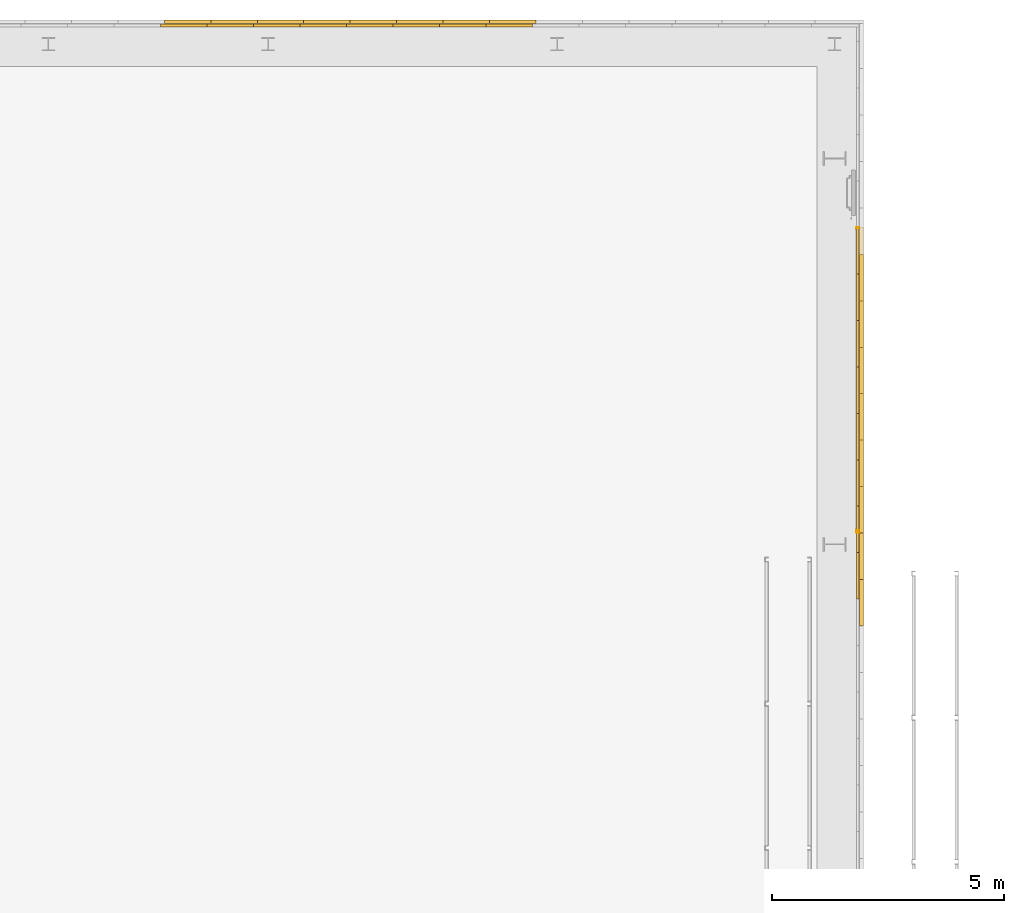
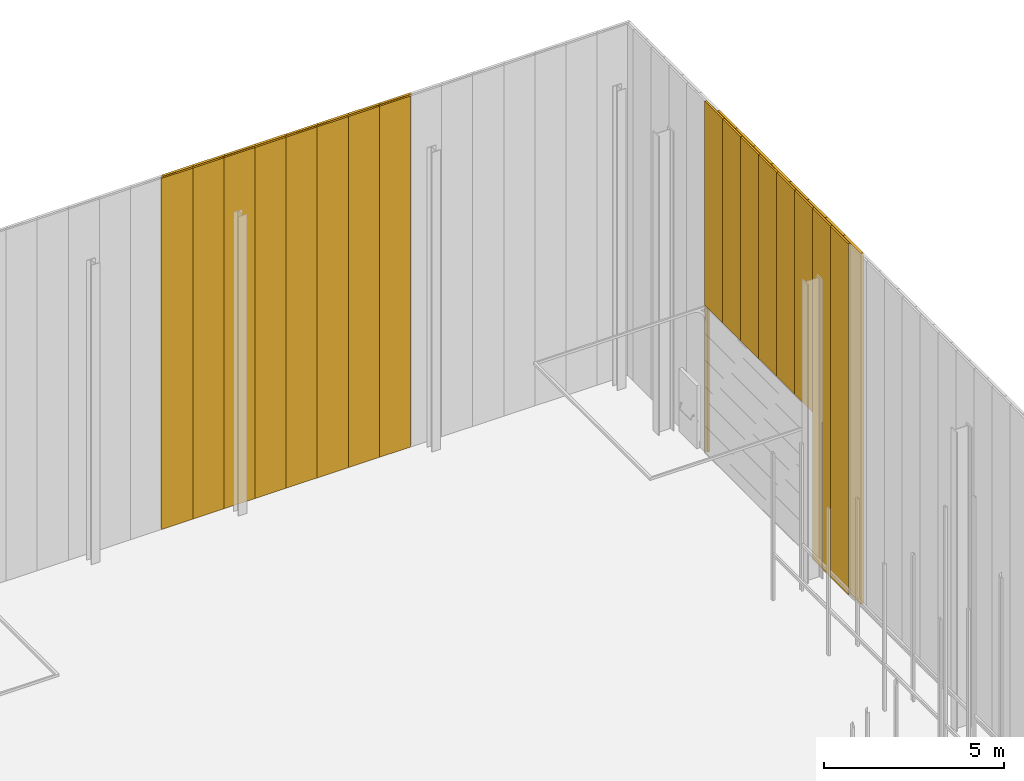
# One storey, part 248 of 302: 34 curtain walls, 2 openings, 4 elements without a shape of their own.
"""IFC2X3 building model written with IfcOpenShell, lengths in metres."""

from ifc_helpers import new_model, entity, si_unit, converted_unit, derived_unit, direction, frame, frame_2d, origin, place, context, subcontext, project, spatial, rectangle, extrude, faceted_brep, material, layer, layer_set, layer_usage, type_object, element, aggregate, save


model = new_model("IFC2X3")

# Units and contexts
model_context = context("Model", 3, precision=1e-05, world=origin(), true_north=direction((6.12303176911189e-17, 1.0)))
body_context = subcontext(model_context, "Body", "Model", "MODEL_VIEW")
ifc_project = project(units=[si_unit("LENGTHUNIT", "METRE"), si_unit("AREAUNIT", "SQUARE_METRE"), si_unit("VOLUMEUNIT", "CUBIC_METRE"), converted_unit("PLANEANGLEUNIT", "DEGREE", entity("IfcRatioMeasure", 0.0174532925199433), si_unit("PLANEANGLEUNIT", "RADIAN"), dimensions=[0, 0, 0, 0, 0, 0, 0]), si_unit("MASSUNIT", "GRAM", prefix="KILO"), derived_unit("MASSDENSITYUNIT", [(si_unit("MASSUNIT", "GRAM", prefix="KILO"), 1), (si_unit("LENGTHUNIT", "METRE"), -3)]), derived_unit("MOMENTOFINERTIAUNIT", [(si_unit("LENGTHUNIT", "METRE"), 4)]), si_unit("TIMEUNIT", "SECOND"), si_unit("FREQUENCYUNIT", "HERTZ"), si_unit("THERMODYNAMICTEMPERATUREUNIT", "DEGREE_CELSIUS"), derived_unit("THERMALTRANSMITTANCEUNIT", [(si_unit("MASSUNIT", "GRAM", prefix="KILO"), 1), (si_unit("THERMODYNAMICTEMPERATUREUNIT", "KELVIN"), -1), (si_unit("TIMEUNIT", "SECOND"), -3)]), derived_unit("VOLUMETRICFLOWRATEUNIT", [(si_unit("LENGTHUNIT", "METRE"), 3), (si_unit("TIMEUNIT", "SECOND"), -1)]), si_unit("ELECTRICCURRENTUNIT", "AMPERE"), si_unit("ELECTRICVOLTAGEUNIT", "VOLT"), si_unit("POWERUNIT", "WATT"), si_unit("FORCEUNIT", "NEWTON", prefix="KILO"), si_unit("ILLUMINANCEUNIT", "LUX"), si_unit("LUMINOUSFLUXUNIT", "LUMEN"), si_unit("LUMINOUSINTENSITYUNIT", "CANDELA"), derived_unit("USERDEFINED", [(si_unit("MASSUNIT", "GRAM", prefix="KILO"), -1), (si_unit("LENGTHUNIT", "METRE"), -2), (si_unit("TIMEUNIT", "SECOND"), 3), (si_unit("LUMINOUSFLUXUNIT", "LUMEN"), 1)]), derived_unit("LINEARVELOCITYUNIT", [(si_unit("LENGTHUNIT", "METRE"), 1), (si_unit("TIMEUNIT", "SECOND"), -1)]), si_unit("PRESSUREUNIT", "PASCAL"), derived_unit("USERDEFINED", [(si_unit("LENGTHUNIT", "METRE"), -2), (si_unit("MASSUNIT", "GRAM", prefix="KILO"), 1), (si_unit("TIMEUNIT", "SECOND"), -2)]), derived_unit("LINEARFORCEUNIT", [(si_unit("MASSUNIT", "GRAM", prefix="KILO"), 1), (si_unit("LENGTHUNIT", "METRE"), 1), (si_unit("TIMEUNIT", "SECOND"), -2), (si_unit("LENGTHUNIT", "METRE"), -1)]), derived_unit("PLANARFORCEUNIT", [(si_unit("MASSUNIT", "GRAM", prefix="KILO"), 1), (si_unit("LENGTHUNIT", "METRE"), 1), (si_unit("TIMEUNIT", "SECOND"), -2), (si_unit("LENGTHUNIT", "METRE"), -2)])], contexts=[model_context])

# Site, building, storey
site_placement = place(None, origin())
site = spatial("IfcSite", under=ifc_project, at=site_placement, Name="Default", CompositionType="ELEMENT")
building_placement = place(site_placement, origin())
building = spatial("IfcBuilding", under=site, at=building_placement, CompositionType="ELEMENT")
storey_placement = place(building_placement, frame((0.0, 0.0, -1.3)))
storey = spatial("IfcBuildingStorey", under=building, at=storey_placement, Name="00_EG", CompositionType="ELEMENT", Elevation=-1.3)

# Curtain walls
curtain_wall_type_1 = type_object("IfcCurtainWallType", PredefinedType="NOTDEFINED")
curtain_wall_1_placement = place(storey_placement, frame((0.0, 0.0, 1.3)))
curtain_wall_1 = element("IfcCurtainWall", 1, at=curtain_wall_1_placement, inside=storey, type_object=curtain_wall_type_1)
ifc_material_1 = material(Name="Prepainted_Steel-ArcelorMittal_Construction_HAIRULTRA-35-CORAL-4309-[RAL_3000]")
ifc_layer_1 = layer(ifc_material_1, 0.01)
ifc_material_2 = material(Name="ArcelorMittal-MineralWool")
ifc_layer_2 = layer(ifc_material_2, 0.06)
ifc_layer_3 = layer(ifc_material_1, 0.01)
ifc_layer_set_1 = layer_set([ifc_layer_1, ifc_layer_2, ifc_layer_3], Name="Fassade:Sandwichpaneele Gebäude B 80mm")
ifc_layer_usage_1 = layer_usage(ifc_layer_set_1, "AXIS2", "NEGATIVE", 0.04)
curtain_wall_type_2 = type_object("IfcCurtainWallType", Name="Basiswand:Sandwichpaneele d = 8cm aussen", PredefinedType="NOTDEFINED", material=ifc_layer_set_1)
curtain_wall_2_placement = place(storey_placement, frame((-184.310111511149, 76.168088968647, 1.27), z_axis=(0.0, 0.0, 1.0), x_axis=(-1.0, 0.0, 0.0)))
curtain_wall_2 = element("IfcCurtainWall", 2, at=curtain_wall_2_placement, type_object=curtain_wall_type_2, material=ifc_layer_usage_1, Name="Basiswand:Sandwichpaneele d = 8cm aussen", ObjectType="Basiswand:Sandwichpaneele d = 8cm aussen", context=body_context, shape_type="SweptSolid", body=[
    extrude(rectangle(XDim=0.999999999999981, YDim=0.0799999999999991, at=frame_2d((0.49999999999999, 0.0), x_axis=(-1.0, 0.0))), origin(), (0.0, 0.0, 1.0), 11.9314),
])
ifc_layer_usage_2 = layer_usage(ifc_layer_set_1, "AXIS2", "NEGATIVE", 0.04)
curtain_wall_3_placement = place(storey_placement, frame((-185.310111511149, 76.168088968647, 1.27), z_axis=(0.0, 0.0, 1.0), x_axis=(-1.0, 0.0, 0.0)))
curtain_wall_3 = element("IfcCurtainWall", 3, at=curtain_wall_3_placement, type_object=curtain_wall_type_2, material=ifc_layer_usage_2, Name="Basiswand:Sandwichpaneele d = 8cm aussen", ObjectType="Basiswand:Sandwichpaneele d = 8cm aussen", context=body_context, shape_type="SweptSolid", body=[
    extrude(rectangle(XDim=1.00000000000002, YDim=0.0799999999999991, at=frame_2d((0.500000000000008, 0.0), x_axis=(-1.0, 0.0))), origin(), (0.0, 0.0, 1.0), 11.9314),
])
ifc_layer_usage_3 = layer_usage(ifc_layer_set_1, "AXIS2", "NEGATIVE", 0.04)
curtain_wall_4_placement = place(storey_placement, frame((-186.310111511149, 76.168088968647, 1.27), z_axis=(0.0, 0.0, 1.0), x_axis=(-1.0, 0.0, 0.0)))
curtain_wall_4 = element("IfcCurtainWall", 4, at=curtain_wall_4_placement, type_object=curtain_wall_type_2, material=ifc_layer_usage_3, Name="Basiswand:Sandwichpaneele d = 8cm aussen", ObjectType="Basiswand:Sandwichpaneele d = 8cm aussen", context=body_context, shape_type="SweptSolid", body=[
    extrude(rectangle(XDim=1.00000000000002, YDim=0.0799999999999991, at=frame_2d((0.500000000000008, 0.0), x_axis=(-1.0, 0.0))), origin(), (0.0, 0.0, 1.0), 11.9314),
])
ifc_layer_usage_4 = layer_usage(ifc_layer_set_1, "AXIS2", "NEGATIVE", 0.04)
curtain_wall_5_placement = place(storey_placement, frame((-187.310111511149, 76.168088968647, 1.27), z_axis=(0.0, 0.0, 1.0), x_axis=(-1.0, 0.0, 0.0)))
curtain_wall_5 = element("IfcCurtainWall", 5, at=curtain_wall_5_placement, type_object=curtain_wall_type_2, material=ifc_layer_usage_4, Name="Basiswand:Sandwichpaneele d = 8cm aussen", ObjectType="Basiswand:Sandwichpaneele d = 8cm aussen", context=body_context, shape_type="SweptSolid", body=[
    extrude(rectangle(XDim=0.999999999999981, YDim=0.0799999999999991, at=frame_2d((0.49999999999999, 0.0), x_axis=(-1.0, 0.0))), origin(), (0.0, 0.0, 1.0), 11.9314),
])
ifc_layer_usage_5 = layer_usage(ifc_layer_set_1, "AXIS2", "NEGATIVE", 0.04)
curtain_wall_6_placement = place(storey_placement, frame((-188.310111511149, 76.168088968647, 1.27), z_axis=(0.0, 0.0, 1.0), x_axis=(-1.0, 0.0, 0.0)))
curtain_wall_6 = element("IfcCurtainWall", 6, at=curtain_wall_6_placement, type_object=curtain_wall_type_2, material=ifc_layer_usage_5, Name="Basiswand:Sandwichpaneele d = 8cm aussen", ObjectType="Basiswand:Sandwichpaneele d = 8cm aussen", context=body_context, shape_type="SweptSolid", body=[
    extrude(rectangle(XDim=1.00000000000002, YDim=0.0799999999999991, at=frame_2d((0.500000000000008, 0.0), x_axis=(-1.0, 0.0))), origin(), (0.0, 0.0, 1.0), 11.9314),
])
ifc_layer_usage_6 = layer_usage(ifc_layer_set_1, "AXIS2", "NEGATIVE", 0.04)
curtain_wall_7_placement = place(storey_placement, frame((-189.310111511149, 76.168088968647, 1.27), z_axis=(0.0, 0.0, 1.0), x_axis=(-1.0, 0.0, 0.0)))
curtain_wall_7 = element("IfcCurtainWall", 7, at=curtain_wall_7_placement, type_object=curtain_wall_type_2, material=ifc_layer_usage_6, Name="Basiswand:Sandwichpaneele d = 8cm aussen", ObjectType="Basiswand:Sandwichpaneele d = 8cm aussen", context=body_context, shape_type="SweptSolid", body=[
    extrude(rectangle(XDim=0.999999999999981, YDim=0.0799999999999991, at=frame_2d((0.49999999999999, 0.0), x_axis=(-1.0, 0.0))), origin(), (0.0, 0.0, 1.0), 11.9314),
])
ifc_layer_usage_7 = layer_usage(ifc_layer_set_1, "AXIS2", "NEGATIVE", 0.04)
curtain_wall_8_placement = place(storey_placement, frame((-190.310111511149, 76.168088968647, 1.27), z_axis=(0.0, 0.0, 1.0), x_axis=(-1.0, 0.0, 0.0)))
curtain_wall_8 = element("IfcCurtainWall", 8, at=curtain_wall_8_placement, type_object=curtain_wall_type_2, material=ifc_layer_usage_7, Name="Basiswand:Sandwichpaneele d = 8cm aussen", ObjectType="Basiswand:Sandwichpaneele d = 8cm aussen", context=body_context, shape_type="SweptSolid", body=[
    extrude(rectangle(XDim=1.00000000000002, YDim=0.0799999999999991, at=frame_2d((0.500000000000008, 0.0), x_axis=(-1.0, 0.0))), origin(), (0.0, 0.0, 1.0), 11.9314),
])
ifc_layer_usage_8 = layer_usage(ifc_layer_set_1, "AXIS2", "NEGATIVE", 0.04)
curtain_wall_9_placement = place(storey_placement, frame((-191.310111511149, 76.168088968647, 1.27), z_axis=(0.0, 0.0, 1.0), x_axis=(-1.0, 0.0, 0.0)))
curtain_wall_9 = element("IfcCurtainWall", 9, at=curtain_wall_9_placement, type_object=curtain_wall_type_2, material=ifc_layer_usage_8, Name="Basiswand:Sandwichpaneele d = 8cm aussen", ObjectType="Basiswand:Sandwichpaneele d = 8cm aussen", context=body_context, shape_type="SweptSolid", body=[
    extrude(rectangle(XDim=0.999999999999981, YDim=0.0799999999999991, at=frame_2d((0.49999999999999, 0.0), x_axis=(-1.0, 0.0))), origin(), (0.0, 0.0, 1.0), 11.9314),
])
aggregate(curtain_wall_1, [curtain_wall_2, curtain_wall_3, curtain_wall_4, curtain_wall_5, curtain_wall_6, curtain_wall_7, curtain_wall_8, curtain_wall_9])

# Curtain walls, opening
curtain_wall_10_placement = place(storey_placement, frame((0.0, 0.0, 1.3)))
curtain_wall_10 = element("IfcCurtainWall", 10, at=curtain_wall_10_placement, inside=storey, type_object=curtain_wall_type_1)
ifc_layer_usage_9 = layer_usage(ifc_layer_set_1, "AXIS2", "POSITIVE", -0.04)
curtain_wall_11_placement = place(storey_placement, frame((-177.310111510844, 71.7580889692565, 1.27), z_axis=(0.0, 0.0, 1.0), x_axis=(0.0, -1.0, 0.0)))
curtain_wall_11 = element("IfcCurtainWall", 11, at=curtain_wall_11_placement, type_object=curtain_wall_type_2, material=ifc_layer_usage_9, Name="Basiswand:Sandwichpaneele d = 8cm aussen", ObjectType="Basiswand:Sandwichpaneele d = 8cm aussen", context=body_context, shape_type="SweptSolid", body=[
    extrude(rectangle(XDim=6.5900000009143, YDim=0.0799999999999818, at=frame_2d((3.29500000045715, 0.0), x_axis=(-1.0, 0.0))), origin(), (0.0, 0.0, 1.0), 5.0),
])
opening_1_placement = place(curtain_wall_11_placement, frame((6.53000000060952, -0.109999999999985, -0.180000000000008)))
opening_1 = element("IfcOpeningElement", 12, at=opening_1_placement, cuts=curtain_wall_11, Name="Basiswand:Sandwichpaneele d = 8cm aussen", ObjectType="Opening", context=body_context, shape_type="Brep", body=[
    faceted_brep([(0.0, 0.0, 5.17999999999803), (-6.49999999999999, 0.0, 5.17999999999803), (-6.49999999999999, 0.0, 0.0), (0.0, 0.0, 0.0), (0.0, 0.0600000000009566, 5.17999999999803), (0.0, 0.0600000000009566, 0.0), (-6.49999999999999, 0.0600000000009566, 0.0), (-6.49999999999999, 0.0600000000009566, 5.17999999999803), (-6.46999999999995, 0.0600000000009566, 5.14999999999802), (-6.46999999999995, 0.0600000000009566, 0.099999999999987), (-0.0299999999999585, 0.0600000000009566, 0.0999999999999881), (-0.0299999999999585, 0.0600000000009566, 5.14999999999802), (-0.0299999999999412, 0.220000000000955, 5.14999999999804), (-0.0299999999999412, 0.220000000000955, 0.0999999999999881), (-6.46999999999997, 0.22000000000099, 0.0999999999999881), (-6.46999999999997, 0.220000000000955, 5.14999999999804)], [[[0, 1, 2, 3]], [[4, 5, 6, 7], [8, 9, 10, 11]], [[0, 4, 7, 1]], [[1, 7, 6, 2]], [[2, 6, 5, 3]], [[3, 5, 4, 0]], [[12, 13, 14, 15]], [[15, 8, 11, 12]], [[14, 9, 8, 15]], [[13, 10, 9, 14]], [[12, 11, 10, 13]]]),
])
ifc_layer_usage_10 = layer_usage(ifc_layer_set_1, "AXIS2", "POSITIVE", -0.04)
curtain_wall_12_placement = place(storey_placement, frame((-177.310111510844, 65.1680889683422, 1.27), z_axis=(0.0, 0.0, 1.0), x_axis=(0.0, -1.0, 0.0)))
curtain_wall_12 = element("IfcCurtainWall", 13, at=curtain_wall_12_placement, type_object=curtain_wall_type_2, material=ifc_layer_usage_10, Name="Basiswand:Sandwichpaneele d = 8cm aussen", ObjectType="Basiswand:Sandwichpaneele d = 8cm aussen", context=body_context, shape_type="SweptSolid", body=[
    extrude(rectangle(XDim=0.999999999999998, YDim=0.0799999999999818, at=frame_2d((0.499999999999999, 0.0), x_axis=(-1.0, 0.0))), origin(), (0.0, 0.0, 1.0), 11.9314),
])
ifc_layer_usage_11 = layer_usage(ifc_layer_set_1, "AXIS2", "POSITIVE", -0.04)
curtain_wall_13_placement = place(storey_placement, frame((-177.310111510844, 64.1680889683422, 1.27), z_axis=(0.0, 0.0, 1.0), x_axis=(0.0, -1.0, 0.0)))
curtain_wall_13 = element("IfcCurtainWall", 14, at=curtain_wall_13_placement, type_object=curtain_wall_type_2, material=ifc_layer_usage_11, Name="Basiswand:Sandwichpaneele d = 8cm aussen", ObjectType="Basiswand:Sandwichpaneele d = 8cm aussen", context=body_context, shape_type="SweptSolid", body=[
    extrude(rectangle(XDim=0.999999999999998, YDim=0.0799999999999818, at=frame_2d((0.499999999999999, 0.0), x_axis=(-1.0, 0.0))), origin(), (0.0, 0.0, 1.0), 11.9314),
])
ifc_layer_usage_12 = layer_usage(ifc_layer_set_1, "AXIS2", "POSITIVE", -0.04)
curtain_wall_14_placement = place(storey_placement, frame((-177.310111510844, 71.1680889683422, 6.27), z_axis=(0.0, 0.0, 1.0), x_axis=(0.0, -1.0, 0.0)))
curtain_wall_14 = element("IfcCurtainWall", 15, at=curtain_wall_14_placement, type_object=curtain_wall_type_2, material=ifc_layer_usage_12, Name="Basiswand:Sandwichpaneele d = 8cm aussen", ObjectType="Basiswand:Sandwichpaneele d = 8cm aussen", context=body_context, shape_type="SweptSolid", body=[
    extrude(rectangle(XDim=0.999999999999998, YDim=0.0799999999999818, at=frame_2d((0.499999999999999, 0.0), x_axis=(-1.0, 0.0))), origin(), (0.0, 0.0, 1.0), 6.9314),
])
ifc_layer_usage_13 = layer_usage(ifc_layer_set_1, "AXIS2", "POSITIVE", -0.04)
curtain_wall_15_placement = place(storey_placement, frame((-177.310111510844, 70.1680889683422, 6.27), z_axis=(0.0, 0.0, 1.0), x_axis=(0.0, -1.0, 0.0)))
curtain_wall_15 = element("IfcCurtainWall", 16, at=curtain_wall_15_placement, type_object=curtain_wall_type_2, material=ifc_layer_usage_13, Name="Basiswand:Sandwichpaneele d = 8cm aussen", ObjectType="Basiswand:Sandwichpaneele d = 8cm aussen", context=body_context, shape_type="SweptSolid", body=[
    extrude(rectangle(XDim=1.00000000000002, YDim=0.0799999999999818, at=frame_2d((0.500000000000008, 0.0), x_axis=(-1.0, 0.0))), origin(), (0.0, 0.0, 1.0), 6.9314),
])
ifc_layer_usage_14 = layer_usage(ifc_layer_set_1, "AXIS2", "POSITIVE", -0.04)
curtain_wall_16_placement = place(storey_placement, frame((-177.310111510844, 69.1680889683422, 6.27), z_axis=(0.0, 0.0, 1.0), x_axis=(0.0, -1.0, 0.0)))
curtain_wall_16 = element("IfcCurtainWall", 17, at=curtain_wall_16_placement, type_object=curtain_wall_type_2, material=ifc_layer_usage_14, Name="Basiswand:Sandwichpaneele d = 8cm aussen", ObjectType="Basiswand:Sandwichpaneele d = 8cm aussen", context=body_context, shape_type="SweptSolid", body=[
    extrude(rectangle(XDim=0.999999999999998, YDim=0.0799999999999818, at=frame_2d((0.499999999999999, 0.0), x_axis=(-1.0, 0.0))), origin(), (0.0, 0.0, 1.0), 6.9314),
])
ifc_layer_usage_15 = layer_usage(ifc_layer_set_1, "AXIS2", "POSITIVE", -0.04)
curtain_wall_17_placement = place(storey_placement, frame((-177.310111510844, 68.1680889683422, 6.27), z_axis=(0.0, 0.0, 1.0), x_axis=(0.0, -1.0, 0.0)))
curtain_wall_17 = element("IfcCurtainWall", 18, at=curtain_wall_17_placement, type_object=curtain_wall_type_2, material=ifc_layer_usage_15, Name="Basiswand:Sandwichpaneele d = 8cm aussen", ObjectType="Basiswand:Sandwichpaneele d = 8cm aussen", context=body_context, shape_type="SweptSolid", body=[
    extrude(rectangle(XDim=1.00000000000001, YDim=0.0799999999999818, at=frame_2d((0.500000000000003, 0.0), x_axis=(-1.0, 0.0))), origin(), (0.0, 0.0, 1.0), 6.9314),
])
ifc_layer_usage_16 = layer_usage(ifc_layer_set_1, "AXIS2", "POSITIVE", -0.04)
curtain_wall_18_placement = place(storey_placement, frame((-177.310111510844, 67.1680889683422, 6.27), z_axis=(0.0, 0.0, 1.0), x_axis=(0.0, -1.0, 0.0)))
curtain_wall_18 = element("IfcCurtainWall", 19, at=curtain_wall_18_placement, type_object=curtain_wall_type_2, material=ifc_layer_usage_16, Name="Basiswand:Sandwichpaneele d = 8cm aussen", ObjectType="Basiswand:Sandwichpaneele d = 8cm aussen", context=body_context, shape_type="SweptSolid", body=[
    extrude(rectangle(XDim=0.999999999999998, YDim=0.0799999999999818, at=frame_2d((0.499999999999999, 0.0), x_axis=(-1.0, 0.0))), origin(), (0.0, 0.0, 1.0), 6.9314),
])
ifc_layer_usage_17 = layer_usage(ifc_layer_set_1, "AXIS2", "POSITIVE", -0.04)
curtain_wall_19_placement = place(storey_placement, frame((-177.310111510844, 66.1680889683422, 6.27), z_axis=(0.0, 0.0, 1.0), x_axis=(0.0, -1.0, 0.0)))
curtain_wall_19 = element("IfcCurtainWall", 20, at=curtain_wall_19_placement, type_object=curtain_wall_type_2, material=ifc_layer_usage_17, Name="Basiswand:Sandwichpaneele d = 8cm aussen", ObjectType="Basiswand:Sandwichpaneele d = 8cm aussen", context=body_context, shape_type="SweptSolid", body=[
    extrude(rectangle(XDim=1.00000000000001, YDim=0.0799999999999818, at=frame_2d((0.500000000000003, 0.0), x_axis=(-1.0, 0.0))), origin(), (0.0, 0.0, 1.0), 6.9314),
])
aggregate(curtain_wall_10, [curtain_wall_11, opening_1, curtain_wall_12, curtain_wall_13, curtain_wall_14, curtain_wall_15, curtain_wall_16, curtain_wall_17, curtain_wall_18, curtain_wall_19])

# Curtain walls
curtain_wall_type_3 = type_object("IfcCurtainWallType", PredefinedType="NOTDEFINED")
curtain_wall_20_placement = place(storey_placement, frame((0.0, 0.0, 1.3)))
curtain_wall_20 = element("IfcCurtainWall", 21, at=curtain_wall_20_placement, inside=storey, type_object=curtain_wall_type_3)
ifc_layer_4 = layer(ifc_material_1, 0.01)
ifc_layer_5 = layer(ifc_material_2, 0.04)
ifc_layer_6 = layer(ifc_material_1, 0.01)
ifc_layer_set_2 = layer_set([ifc_layer_4, ifc_layer_5, ifc_layer_6], Name="Fassade:Sandwichpaneele Gebäude B 60mm")
ifc_layer_usage_18 = layer_usage(ifc_layer_set_2, "AXIS2", "NEGATIVE", 0.03)
curtain_wall_type_4 = type_object("IfcCurtainWallType", Name="Basiswand:Sandwichpaneele d = 6cm aussen", PredefinedType="NOTDEFINED", material=ifc_layer_set_2)
curtain_wall_21_placement = place(storey_placement, frame((-184.390111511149, 76.088088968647, 1.27), z_axis=(0.0, 0.0, 1.0), x_axis=(-1.0, 0.0, 0.0)))
curtain_wall_21 = element("IfcCurtainWall", 22, at=curtain_wall_21_placement, type_object=curtain_wall_type_4, material=ifc_layer_usage_18, Name="Basiswand:Sandwichpaneele d = 6cm aussen", ObjectType="Basiswand:Sandwichpaneele d = 6cm aussen", context=body_context, shape_type="SweptSolid", body=[
    extrude(rectangle(XDim=0.999999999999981, YDim=0.0600000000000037, at=frame_2d((0.49999999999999, -4.04190569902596e-15), x_axis=(-1.0, 0.0))), origin(), (0.0, 0.0, 1.0), 11.9314),
])
ifc_layer_usage_19 = layer_usage(ifc_layer_set_2, "AXIS2", "NEGATIVE", 0.03)
curtain_wall_22_placement = place(storey_placement, frame((-185.390111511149, 76.088088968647, 1.27), z_axis=(0.0, 0.0, 1.0), x_axis=(-1.0, 0.0, 0.0)))
curtain_wall_22 = element("IfcCurtainWall", 23, at=curtain_wall_22_placement, type_object=curtain_wall_type_4, material=ifc_layer_usage_19, Name="Basiswand:Sandwichpaneele d = 6cm aussen", ObjectType="Basiswand:Sandwichpaneele d = 6cm aussen", context=body_context, shape_type="SweptSolid", body=[
    extrude(rectangle(XDim=1.00000000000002, YDim=0.0600000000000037, at=frame_2d((0.500000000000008, 2.89698820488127e-16), x_axis=(-1.0, 0.0))), origin(), (0.0, 0.0, 1.0), 11.9314),
])
ifc_layer_usage_20 = layer_usage(ifc_layer_set_2, "AXIS2", "NEGATIVE", 0.03)
curtain_wall_23_placement = place(storey_placement, frame((-186.390111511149, 76.088088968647, 1.27), z_axis=(0.0, 0.0, 1.0), x_axis=(-1.0, 0.0, 0.0)))
curtain_wall_23 = element("IfcCurtainWall", 24, at=curtain_wall_23_placement, type_object=curtain_wall_type_4, material=ifc_layer_usage_20, Name="Basiswand:Sandwichpaneele d = 6cm aussen", ObjectType="Basiswand:Sandwichpaneele d = 6cm aussen", context=body_context, shape_type="SweptSolid", body=[
    extrude(rectangle(XDim=1.00000000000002, YDim=0.0600000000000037, at=frame_2d((0.500000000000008, 2.89698820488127e-16), x_axis=(-1.0, 0.0))), origin(), (0.0, 0.0, 1.0), 11.9314),
])
ifc_layer_usage_21 = layer_usage(ifc_layer_set_2, "AXIS2", "NEGATIVE", 0.03)
curtain_wall_24_placement = place(storey_placement, frame((-187.390111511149, 76.088088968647, 1.27), z_axis=(0.0, 0.0, 1.0), x_axis=(-1.0, 0.0, 0.0)))
curtain_wall_24 = element("IfcCurtainWall", 25, at=curtain_wall_24_placement, type_object=curtain_wall_type_4, material=ifc_layer_usage_21, Name="Basiswand:Sandwichpaneele d = 6cm aussen", ObjectType="Basiswand:Sandwichpaneele d = 6cm aussen", context=body_context, shape_type="SweptSolid", body=[
    extrude(rectangle(XDim=0.999999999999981, YDim=0.0600000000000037, at=frame_2d((0.49999999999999, 2.89698820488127e-16), x_axis=(-1.0, 0.0))), origin(), (0.0, 0.0, 1.0), 11.9314),
])
ifc_layer_usage_22 = layer_usage(ifc_layer_set_2, "AXIS2", "NEGATIVE", 0.03)
curtain_wall_25_placement = place(storey_placement, frame((-188.390111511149, 76.088088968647, 1.27), z_axis=(0.0, 0.0, 1.0), x_axis=(-1.0, 0.0, 0.0)))
curtain_wall_25 = element("IfcCurtainWall", 26, at=curtain_wall_25_placement, type_object=curtain_wall_type_4, material=ifc_layer_usage_22, Name="Basiswand:Sandwichpaneele d = 6cm aussen", ObjectType="Basiswand:Sandwichpaneele d = 6cm aussen", context=body_context, shape_type="SweptSolid", body=[
    extrude(rectangle(XDim=1.00000000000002, YDim=0.0600000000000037, at=frame_2d((0.500000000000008, 2.89698820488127e-16), x_axis=(-1.0, 0.0))), origin(), (0.0, 0.0, 1.0), 11.9314),
])
ifc_layer_usage_23 = layer_usage(ifc_layer_set_2, "AXIS2", "NEGATIVE", 0.03)
curtain_wall_26_placement = place(storey_placement, frame((-189.390111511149, 76.088088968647, 1.27), z_axis=(0.0, 0.0, 1.0), x_axis=(-1.0, 0.0, 0.0)))
curtain_wall_26 = element("IfcCurtainWall", 27, at=curtain_wall_26_placement, type_object=curtain_wall_type_4, material=ifc_layer_usage_23, Name="Basiswand:Sandwichpaneele d = 6cm aussen", ObjectType="Basiswand:Sandwichpaneele d = 6cm aussen", context=body_context, shape_type="SweptSolid", body=[
    extrude(rectangle(XDim=0.999999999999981, YDim=0.0600000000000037, at=frame_2d((0.49999999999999, 2.89698820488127e-16), x_axis=(-1.0, 0.0))), origin(), (0.0, 0.0, 1.0), 11.9314),
])
ifc_layer_usage_24 = layer_usage(ifc_layer_set_2, "AXIS2", "NEGATIVE", 0.03)
curtain_wall_27_placement = place(storey_placement, frame((-190.390111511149, 76.088088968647, 1.27), z_axis=(0.0, 0.0, 1.0), x_axis=(-1.0, 0.0, 0.0)))
curtain_wall_27 = element("IfcCurtainWall", 28, at=curtain_wall_27_placement, type_object=curtain_wall_type_4, material=ifc_layer_usage_24, Name="Basiswand:Sandwichpaneele d = 6cm aussen", ObjectType="Basiswand:Sandwichpaneele d = 6cm aussen", context=body_context, shape_type="SweptSolid", body=[
    extrude(rectangle(XDim=1.00000000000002, YDim=0.0600000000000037, at=frame_2d((0.500000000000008, 2.89698820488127e-16), x_axis=(-1.0, 0.0))), origin(), (0.0, 0.0, 1.0), 11.9314),
])
ifc_layer_usage_25 = layer_usage(ifc_layer_set_2, "AXIS2", "NEGATIVE", 0.03)
curtain_wall_28_placement = place(storey_placement, frame((-191.390111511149, 76.088088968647, 1.27), z_axis=(0.0, 0.0, 1.0), x_axis=(-1.0, 0.0, 0.0)))
curtain_wall_28 = element("IfcCurtainWall", 29, at=curtain_wall_28_placement, type_object=curtain_wall_type_4, material=ifc_layer_usage_25, Name="Basiswand:Sandwichpaneele d = 6cm aussen", ObjectType="Basiswand:Sandwichpaneele d = 6cm aussen", context=body_context, shape_type="SweptSolid", body=[
    extrude(rectangle(XDim=0.999999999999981, YDim=0.0600000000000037, at=frame_2d((0.49999999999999, 2.89698820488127e-16), x_axis=(-1.0, 0.0))), origin(), (0.0, 0.0, 1.0), 11.9314),
])
aggregate(curtain_wall_20, [curtain_wall_21, curtain_wall_22, curtain_wall_23, curtain_wall_24, curtain_wall_25, curtain_wall_26, curtain_wall_27, curtain_wall_28])

# Curtain walls, opening
curtain_wall_29_placement = place(storey_placement, frame((0.0, 0.0, 1.3)))
curtain_wall_29 = element("IfcCurtainWall", 30, at=curtain_wall_29_placement, inside=storey, type_object=curtain_wall_type_3)
ifc_layer_usage_26 = layer_usage(ifc_layer_set_2, "AXIS2", "POSITIVE", -0.03)
curtain_wall_30_placement = place(storey_placement, frame((-177.390111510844, 63.7480889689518, 1.27), z_axis=(0.0, 0.0, 1.0), x_axis=(0.0, 1.0, 0.0)))
curtain_wall_30 = element("IfcCurtainWall", 31, at=curtain_wall_30_placement, type_object=curtain_wall_type_4, material=ifc_layer_usage_26, Name="Basiswand:Sandwichpaneele d = 6cm aussen", ObjectType="Basiswand:Sandwichpaneele d = 6cm aussen", context=body_context, shape_type="SweptSolid", body=[
    extrude(rectangle(XDim=0.999999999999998, YDim=0.0599999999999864, at=frame_2d((0.499999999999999, 0.0), x_axis=(-1.0, 0.0))), origin(), (0.0, 0.0, 1.0), 11.9314),
])
ifc_layer_usage_27 = layer_usage(ifc_layer_set_2, "AXIS2", "POSITIVE", -0.03)
curtain_wall_31_placement = place(storey_placement, frame((-177.390111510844, 64.7480889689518, 1.27), z_axis=(0.0, 0.0, 1.0), x_axis=(0.0, 1.0, 0.0)))
curtain_wall_31 = element("IfcCurtainWall", 32, at=curtain_wall_31_placement, type_object=curtain_wall_type_4, material=ifc_layer_usage_27, Name="Basiswand:Sandwichpaneele d = 6cm aussen", ObjectType="Basiswand:Sandwichpaneele d = 6cm aussen", context=body_context, shape_type="SweptSolid", body=[
    extrude(rectangle(XDim=0.999999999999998, YDim=0.0599999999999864, at=frame_2d((0.499999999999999, 0.0), x_axis=(-1.0, 0.0))), origin(), (0.0, 0.0, 1.0), 11.9314),
])
ifc_layer_usage_28 = layer_usage(ifc_layer_set_2, "AXIS2", "POSITIVE", -0.03)
curtain_wall_32_placement = place(storey_placement, frame((-177.390111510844, 65.178088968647, 1.27), z_axis=(0.0, 0.0, 1.0), x_axis=(0.0, 1.0, 0.0)))
curtain_wall_32 = element("IfcCurtainWall", 33, at=curtain_wall_32_placement, type_object=curtain_wall_type_4, material=ifc_layer_usage_28, Name="Basiswand:Sandwichpaneele d = 6cm aussen", ObjectType="Basiswand:Sandwichpaneele d = 6cm aussen", context=body_context, shape_type="SweptSolid", body=[
    extrude(rectangle(XDim=6.57000000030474, YDim=0.0599999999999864, at=frame_2d((3.28500000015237, 0.0), x_axis=(-1.0, 0.0))), origin(), (0.0, 0.0, 1.0), 5.0),
])
opening_2_placement = place(curtain_wall_32_placement, frame((0.0499999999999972, 0.0300000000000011, -0.180000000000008), z_axis=(0.0, 0.0, 1.0), x_axis=(0.0, -1.0, 0.0)))
element("IfcOpeningElement", 34, at=opening_2_placement, cuts=curtain_wall_32, Name="Basiswand:Sandwichpaneele d = 6cm aussen", ObjectType="Opening", context=body_context, shape_type="Brep", body=[
    faceted_brep([(0.0, 0.0, 5.17999999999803), (0.0, 6.49999999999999, 5.17999999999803), (0.0, 6.49999999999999, 0.0), (0.0, 0.0, 0.0), (0.0600000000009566, 0.0, 5.17999999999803), (0.0600000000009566, 0.0, 0.0), (0.0600000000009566, 6.49999999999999, 0.0), (0.0600000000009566, 6.49999999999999, 5.17999999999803), (0.0600000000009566, 6.46999999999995, 5.14999999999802), (0.0600000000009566, 6.46999999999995, 0.099999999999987), (0.0600000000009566, 0.0299999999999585, 0.0999999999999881), (0.0600000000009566, 0.0299999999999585, 5.14999999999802), (0.220000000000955, 0.0299999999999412, 5.14999999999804), (0.220000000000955, 0.0299999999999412, 0.0999999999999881), (0.22000000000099, 6.46999999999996, 0.0999999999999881), (0.220000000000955, 6.46999999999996, 5.14999999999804)], [[[0, 1, 2, 3]], [[4, 5, 6, 7], [8, 9, 10, 11]], [[0, 4, 7, 1]], [[1, 7, 6, 2]], [[2, 6, 5, 3]], [[3, 5, 4, 0]], [[12, 13, 14, 15]], [[15, 8, 11, 12]], [[14, 9, 8, 15]], [[13, 10, 9, 14]], [[12, 11, 10, 13]]]),
])
ifc_layer_usage_29 = layer_usage(ifc_layer_set_2, "AXIS2", "POSITIVE", -0.03)
curtain_wall_33_placement = place(storey_placement, frame((-177.390111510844, 65.7480889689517, 6.27), z_axis=(0.0, 0.0, 1.0), x_axis=(0.0, 1.0, 0.0)))
curtain_wall_33 = element("IfcCurtainWall", 35, at=curtain_wall_33_placement, type_object=curtain_wall_type_4, material=ifc_layer_usage_29, Name="Basiswand:Sandwichpaneele d = 6cm aussen", ObjectType="Basiswand:Sandwichpaneele d = 6cm aussen", context=body_context, shape_type="SweptSolid", body=[
    extrude(rectangle(XDim=0.999999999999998, YDim=0.0599999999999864, at=frame_2d((0.499999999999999, 0.0), x_axis=(-1.0, 0.0))), origin(), (0.0, 0.0, 1.0), 6.9314),
])
ifc_layer_usage_30 = layer_usage(ifc_layer_set_2, "AXIS2", "POSITIVE", -0.03)
curtain_wall_34_placement = place(storey_placement, frame((-177.390111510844, 66.7480889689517, 6.27), z_axis=(0.0, 0.0, 1.0), x_axis=(0.0, 1.0, 0.0)))
curtain_wall_34 = element("IfcCurtainWall", 36, at=curtain_wall_34_placement, type_object=curtain_wall_type_4, material=ifc_layer_usage_30, Name="Basiswand:Sandwichpaneele d = 6cm aussen", ObjectType="Basiswand:Sandwichpaneele d = 6cm aussen", context=body_context, shape_type="SweptSolid", body=[
    extrude(rectangle(XDim=0.999999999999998, YDim=0.0599999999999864, at=frame_2d((0.499999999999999, 0.0), x_axis=(-1.0, 0.0))), origin(), (0.0, 0.0, 1.0), 6.9314),
])
ifc_layer_usage_31 = layer_usage(ifc_layer_set_2, "AXIS2", "POSITIVE", -0.03)
curtain_wall_35_placement = place(storey_placement, frame((-177.390111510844, 67.7480889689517, 6.27), z_axis=(0.0, 0.0, 1.0), x_axis=(0.0, 1.0, 0.0)))
curtain_wall_35 = element("IfcCurtainWall", 37, at=curtain_wall_35_placement, type_object=curtain_wall_type_4, material=ifc_layer_usage_31, Name="Basiswand:Sandwichpaneele d = 6cm aussen", ObjectType="Basiswand:Sandwichpaneele d = 6cm aussen", context=body_context, shape_type="SweptSolid", body=[
    extrude(rectangle(XDim=0.999999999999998, YDim=0.0599999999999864, at=frame_2d((0.499999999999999, 0.0), x_axis=(-1.0, 0.0))), origin(), (0.0, 0.0, 1.0), 6.9314),
])
ifc_layer_usage_32 = layer_usage(ifc_layer_set_2, "AXIS2", "POSITIVE", -0.03)
curtain_wall_36_placement = place(storey_placement, frame((-177.390111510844, 68.7480889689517, 6.27), z_axis=(0.0, 0.0, 1.0), x_axis=(0.0, 1.0, 0.0)))
curtain_wall_36 = element("IfcCurtainWall", 38, at=curtain_wall_36_placement, type_object=curtain_wall_type_4, material=ifc_layer_usage_32, Name="Basiswand:Sandwichpaneele d = 6cm aussen", ObjectType="Basiswand:Sandwichpaneele d = 6cm aussen", context=body_context, shape_type="SweptSolid", body=[
    extrude(rectangle(XDim=0.999999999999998, YDim=0.0599999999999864, at=frame_2d((0.499999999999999, 0.0), x_axis=(-1.0, 0.0))), origin(), (0.0, 0.0, 1.0), 6.9314),
])
ifc_layer_usage_33 = layer_usage(ifc_layer_set_2, "AXIS2", "POSITIVE", -0.03)
curtain_wall_37_placement = place(storey_placement, frame((-177.390111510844, 69.7480889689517, 6.27), z_axis=(0.0, 0.0, 1.0), x_axis=(0.0, 1.0, 0.0)))
curtain_wall_37 = element("IfcCurtainWall", 39, at=curtain_wall_37_placement, type_object=curtain_wall_type_4, material=ifc_layer_usage_33, Name="Basiswand:Sandwichpaneele d = 6cm aussen", ObjectType="Basiswand:Sandwichpaneele d = 6cm aussen", context=body_context, shape_type="SweptSolid", body=[
    extrude(rectangle(XDim=0.999999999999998, YDim=0.0599999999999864, at=frame_2d((0.499999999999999, 0.0), x_axis=(-1.0, 0.0))), origin(), (0.0, 0.0, 1.0), 6.9314),
])
ifc_layer_usage_34 = layer_usage(ifc_layer_set_2, "AXIS2", "POSITIVE", -0.03)
curtain_wall_38_placement = place(storey_placement, frame((-177.390111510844, 70.7480889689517, 6.27), z_axis=(0.0, 0.0, 1.0), x_axis=(0.0, 1.0, 0.0)))
curtain_wall_38 = element("IfcCurtainWall", 40, at=curtain_wall_38_placement, type_object=curtain_wall_type_4, material=ifc_layer_usage_34, Name="Basiswand:Sandwichpaneele d = 6cm aussen", ObjectType="Basiswand:Sandwichpaneele d = 6cm aussen", context=body_context, shape_type="SweptSolid", body=[
    extrude(rectangle(XDim=0.999999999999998, YDim=0.0599999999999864, at=frame_2d((0.499999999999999, 0.0), x_axis=(-1.0, 0.0))), origin(), (0.0, 0.0, 1.0), 6.9314),
])
aggregate(curtain_wall_29, [curtain_wall_30, curtain_wall_31, curtain_wall_32, curtain_wall_33, curtain_wall_34, curtain_wall_35, curtain_wall_36, curtain_wall_37, curtain_wall_38])

save(model, "model.ifc")
